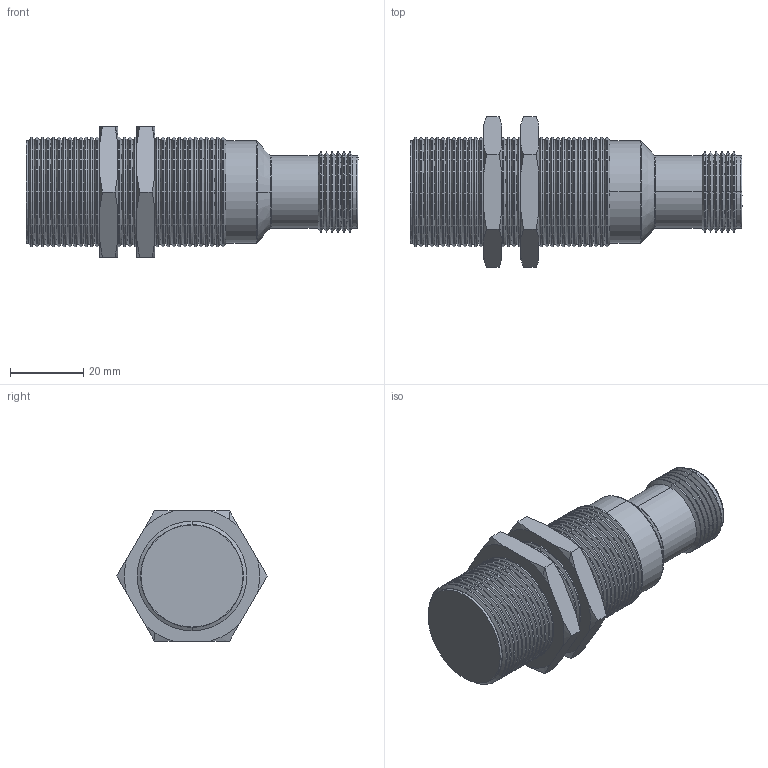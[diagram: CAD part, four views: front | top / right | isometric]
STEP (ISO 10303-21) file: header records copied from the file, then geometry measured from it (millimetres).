
FILE_DESCRIPTION (( 'STEP AP203' ), '1' );
FILE_NAME ('90-XXXX-037.STEP', '2015-10-28T13:24:44', ( 'Sam' ), ( 'Spade' ), 'SwSTEP 2.0', 'SolidWorks 2002296', '' );
FILE_SCHEMA (( 'CONFIG_CONTROL_DESIGN' ));
Length unit declared in the file: inch
Products named in the file (10): 90-XXXX-037; Imported371; Imported370; Imported374; Imported373; Imported372; Imported369; Imported368; Imported367; Imported366
Assembly tree (9 placements, depth 2):
  90-XXXX-037
    Imported372
    Imported369
    Imported371
    Imported373
    Imported370
    Imported374
    Imported368
    Imported367
    Imported366
Bounding box: 90.91 x 41.15 x 35.64 mm (x, y, z)
Volume: 54262.2 mm3; surface area: 21705.5 mm2
Topology: 9 solids, 9 shells, 410 faces, 869 edges, 479 vertices
Faces by surface type: cone 210, cylinder 118, bspline 44, plane 38
Entity records: 12437 total; most frequent: CARTESIAN_POINT 2636, DIRECTION 1991, ORIENTED_EDGE 1726, EDGE_CURVE 863, AXIS2_PLACEMENT_3D 810, VERTEX_POINT 479, CIRCLE 432, EDGE_LOOP 422
